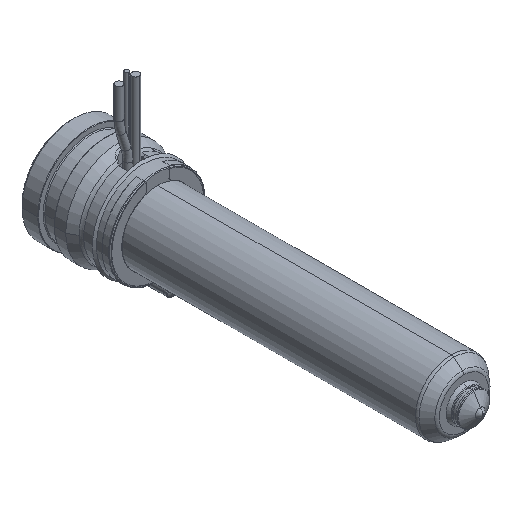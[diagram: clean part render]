
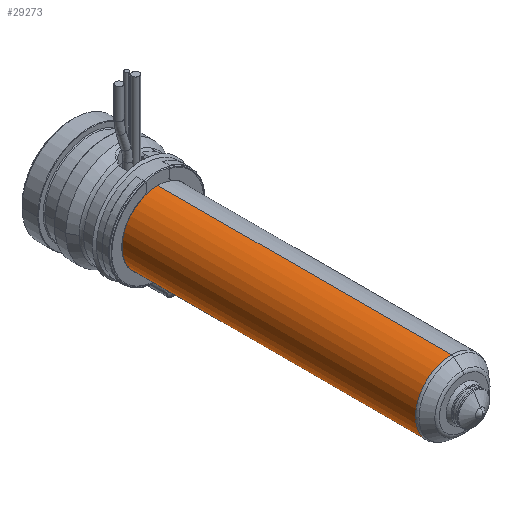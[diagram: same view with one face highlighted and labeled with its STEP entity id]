
A CAD part, isometric view. The second image highlights one B-rep face of the part: STEP entity #29273.
In plain terms, the highlighted cylindrical face has radius 9 mm (diameter 18 mm), a partial arc.
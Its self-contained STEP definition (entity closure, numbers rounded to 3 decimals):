
#28673=CARTESIAN_POINT('',(0.,-95.836,0.));
#28674=DIRECTION('',(0.,-1.,0.));
#28675=DIRECTION('',(0.,0.,1.));
#28676=AXIS2_PLACEMENT_3D('',#28673,#28674,#28675);
#28678=CARTESIAN_POINT('',(0.,-22.,0.));
#28679=DIRECTION('',(0.,1.,0.));
#28680=DIRECTION('',(0.,0.,-1.));
#28681=AXIS2_PLACEMENT_3D('',#28678,#28679,#28680);
#28683=DIRECTION('',(0.,1.,0.));
#28684=VECTOR('',#28683,73.836);
#28685=CARTESIAN_POINT('',(0.,-95.836,9.));
#28686=LINE('',#28685,#28684);
#28692=DIRECTION('',(0.,1.,0.));
#28693=VECTOR('',#28692,73.836);
#28694=CARTESIAN_POINT('',(0.,-95.836,-9.));
#28695=LINE('',#28694,#28693);
#28816=CARTESIAN_POINT('',(0.,-95.836,9.));
#28817=CARTESIAN_POINT('',(0.,-22.,9.));
#28818=VERTEX_POINT('',#28816);
#28819=VERTEX_POINT('',#28817);
#28820=CARTESIAN_POINT('',(0.,-95.836,-9.));
#28821=CARTESIAN_POINT('',(0.,-22.,-9.));
#28822=VERTEX_POINT('',#28820);
#28823=VERTEX_POINT('',#28821);
#29259=CARTESIAN_POINT('',(0.,-13.7,0.));
#29260=DIRECTION('',(0.,-1.,0.));
#29261=DIRECTION('',(0.,0.,1.));
#29262=AXIS2_PLACEMENT_3D('',#29259,#29260,#29261);
#29263=CYLINDRICAL_SURFACE('',#29262,9.);
#29265=ORIENTED_EDGE('',*,*,#29264,.F.);
#29266=ORIENTED_EDGE('',*,*,#29247,.T.);
#29268=ORIENTED_EDGE('',*,*,#29267,.T.);
#29270=ORIENTED_EDGE('',*,*,#29269,.T.);
#29271=EDGE_LOOP('',(#29265,#29266,#29268,#29270));
#29272=FACE_OUTER_BOUND('',#29271,.F.);
#29273=ADVANCED_FACE('',(#29272),#29263,.T.);
#28677=CIRCLE('',#28676,9.);
#28682=CIRCLE('',#28681,9.);
#29247=EDGE_CURVE('',#28818,#28822,#28677,.T.);
#29264=EDGE_CURVE('',#28818,#28819,#28686,.T.);
#29267=EDGE_CURVE('',#28822,#28823,#28695,.T.);
#29269=EDGE_CURVE('',#28823,#28819,#28682,.T.);
